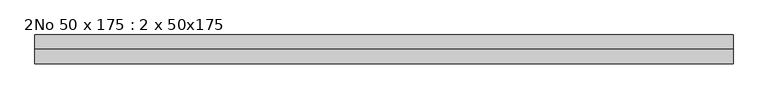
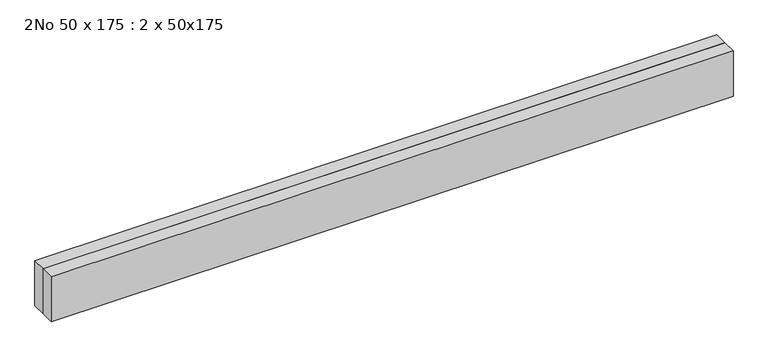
"""IFC4 building model written with IfcOpenShell, lengths in millimetres: beam geometry, 2No 50 x 175 : 2 x 50x175."""

from ifc_helpers import new_model, si_unit, frame, origin, place, context, project, spatial, polyline, outline, extrude, source, transform, mapped, element, save


def beam_2no_50_x_175_2_x_50x175_f7083317(model_context):
    return source(origin(), model_context, "Body", "SweptSolid", [
        extrude(outline(polyline([(1030.0, -25.0), (1030.0, -75.0), (-1402.2322188, -75.0), (-1402.2322188, -25.0), (1030.0, -25.0)])), frame((0.0, 0.0, -85.0), z_axis=(0.0, 0.0, 1.0), x_axis=(1.0, 0.0, 0.0)), (0.0, 0.0, 1.0), 170.0),
        extrude(outline(polyline([(1030.0, 25.0), (1030.0, -25.0), (-1402.2322188, -25.0), (-1402.2322188, 25.0), (1030.0, 25.0)])), frame((0.0, 0.0, -85.0), z_axis=(0.0, 0.0, 1.0), x_axis=(1.0, 0.0, 0.0)), (0.0, 0.0, 1.0), 170.0),
    ])


if __name__ == "__main__":
    model = new_model("IFC4")
    model_context = context("Model", 3, world=origin())
    ifc_project = project(units=[si_unit("LENGTHUNIT", "METRE", prefix="MILLI")], contexts=[model_context])
    site = spatial("IfcSite", under=ifc_project)
    building = spatial("IfcBuilding", under=site)
    placement = place(None, origin())
    beam_2no_50_x_175_2_x_50x175_shape = beam_2no_50_x_175_2_x_50x175_f7083317(model_context)
    element("IfcBeam", 1, ObjectType="2No 50 x 175 : 2 x 50x175", at=placement, inside=building, context=model_context, shape_type="MappedRepresentation", body=[
        mapped(beam_2no_50_x_175_2_x_50x175_shape, transform((0.0, 0.0, 0.0), x_axis=(1.0, 0.0, 0.0), y_axis=(0.0, 1.0, 0.0), z_axis=(0.0, 0.0, 1.0))),
    ])
    save(model, "model.ifc")
